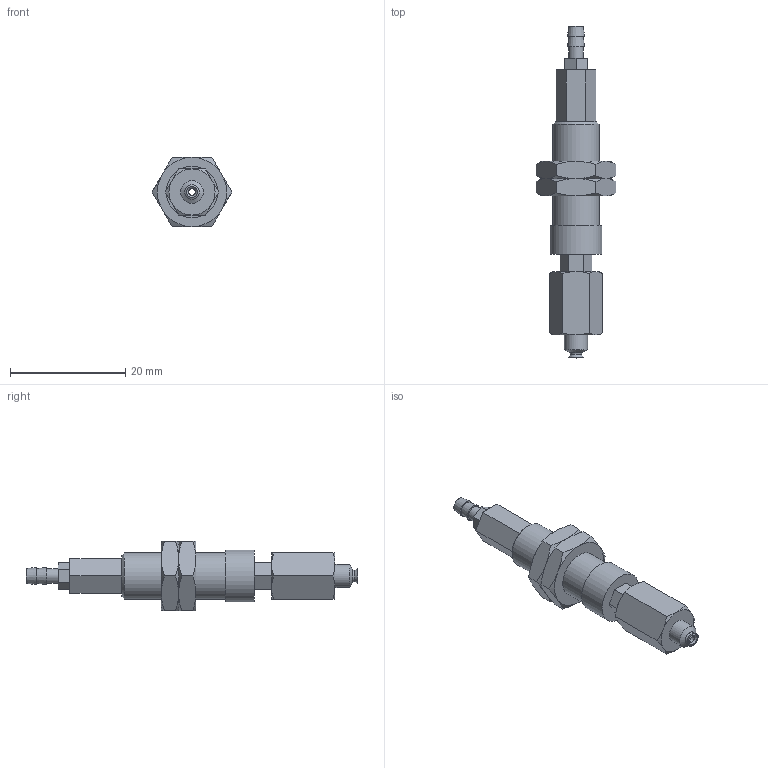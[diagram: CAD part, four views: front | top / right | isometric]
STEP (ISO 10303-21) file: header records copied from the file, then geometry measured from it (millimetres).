
FILE_DESCRIPTION(('STEP AP203'),'1');
FILE_NAME('-T.stp','2025-08-27T02:34:06',(' '),(' '),'Spatial InterOp 3D',' ',' ');
FILE_SCHEMA(('CONFIG_CONTROL_DESIGN'));
Length unit declared in the file: millimetre
Products named in the file (7): BNABPFTH-2A-3-※-T; ADAPTER; NAPFTH-2A-3-MBODY; Nut-2A-3-h; NAPFTH-2A-3-FBODY; BPFG-2A-※; T (2)
Assembly tree (7 placements, depth 2):
  BNABPFTH-2A-3-※-T
    ADAPTER
    NAPFTH-2A-3-MBODY
    Nut-2A-3-h  x2
    NAPFTH-2A-3-FBODY
    BPFG-2A-※
    T (2)
Bounding box: 13.86 x 57.6 x 12 mm (x, y, z)
Volume: 2693.7 mm3; surface area: 3291.4 mm2
Topology: 7 solids, 7 shells, 139 faces, 295 edges, 180 vertices
Faces by surface type: plane 66, cone 49, cylinder 16, torus 7, bspline 1
Full cylindrical faces by diameter (mm): 1.2 x4, 2 x2, 2.459 x1, 2.5 x1, 3 x3, 4 x1, 7.188 x2, 8 x1, 9 x1
Entity records: 3449 total; most frequent: CARTESIAN_POINT 791, DIRECTION 478, ORIENTED_EDGE 412, EDGE_CURVE 206, AXIS2_PLACEMENT_3D 197, EDGE_LOOP 172, VERTEX_POINT 146, FACE_OUTER_BOUND 139
